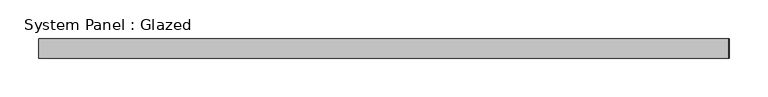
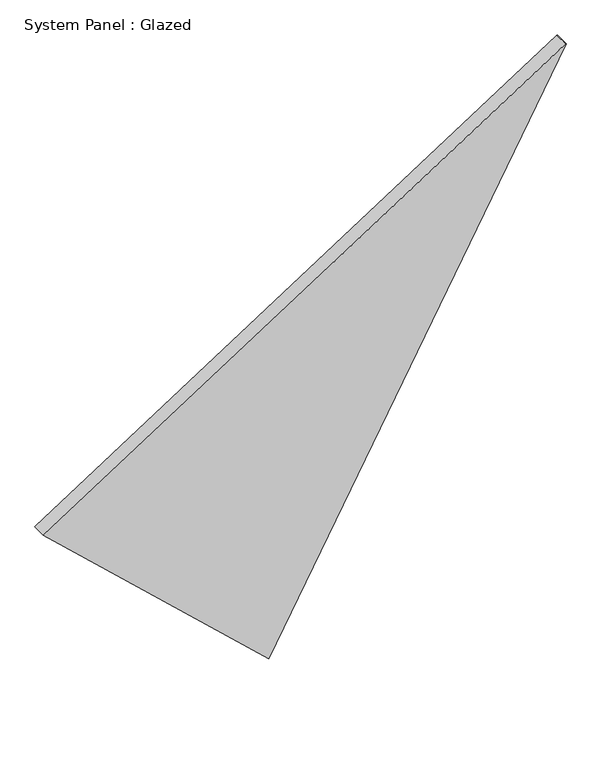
"""IFC4 building model written with IfcOpenShell, lengths in millimetres: plate geometry, System Panel : Glazed."""

from ifc_helpers import new_model, si_unit, frame, origin, place, context, project, spatial, polyline, outline, extrude, source, transform, mapped, element, save


def system_panel_glazed_eae8c054(model_context):
    return source(origin(), model_context, "Body", "SweptSolid", [
        extrude(outline(polyline([(357.8647031, -447.4643733), (0.0, -61.9473863), (934.4354684, 447.4643733), (935.2908079, 446.5429416), (357.8647031, -447.4643733)])), frame((0.0, -44.45, 0.0), z_axis=(0.0, 1.0, 0.0), x_axis=(0.0, 0.0, 1.0)), (0.0, 0.0, 1.0), 25.4),
    ])


if __name__ == "__main__":
    model = new_model("IFC4")
    model_context = context("Model", 3, world=origin())
    ifc_project = project(units=[si_unit("LENGTHUNIT", "METRE", prefix="MILLI")], contexts=[model_context])
    site = spatial("IfcSite", under=ifc_project)
    building = spatial("IfcBuilding", under=site)
    placement = place(None, origin())
    system_panel_glazed_shape = system_panel_glazed_eae8c054(model_context)
    element("IfcPlate", 1, ObjectType="System Panel : Glazed", at=placement, inside=building, context=model_context, shape_type="MappedRepresentation", body=[
        mapped(system_panel_glazed_shape, transform((0.0, 0.0, 0.0), x_axis=(1.0, 0.0, 0.0), y_axis=(0.0, 1.0, 0.0), z_axis=(0.0, 0.0, 1.0))),
    ])
    save(model, "model.ifc")
